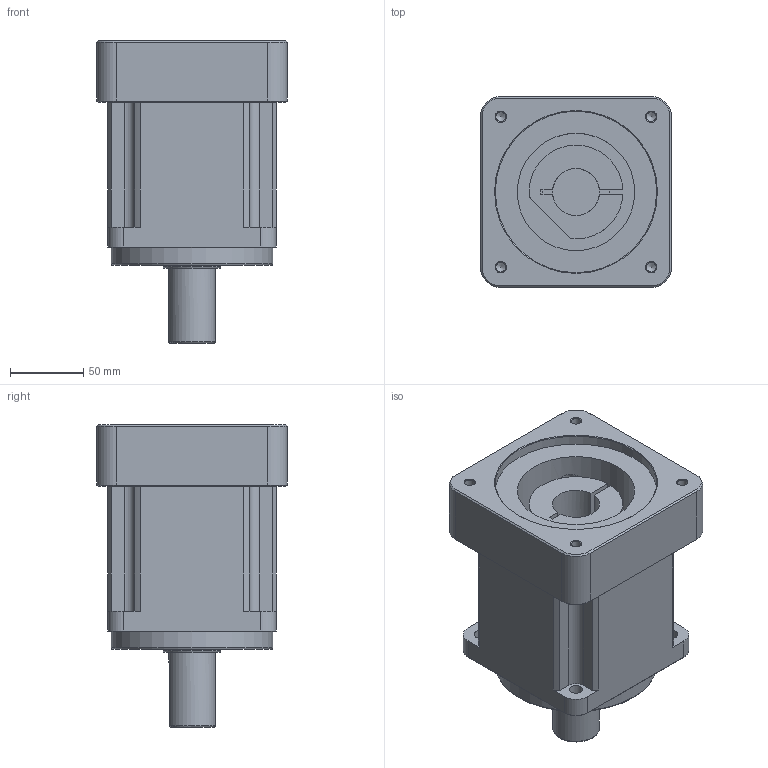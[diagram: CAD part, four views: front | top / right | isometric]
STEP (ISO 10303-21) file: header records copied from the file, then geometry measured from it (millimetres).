
FILE_DESCRIPTION((''),'2;1');
FILE_NAME('D:\유성\유성\도면\3D\2. 홈페이지용 3D 도면 (ipt)\외부도\SPI115 1단\SPI(H)115 SERIES (1STAGE-KA TYPE)_Shrinkwrap_1.stp','2014-05-08T13:49:01',('nagyu'),(''),'Autodesk Inventor 2013','Autodesk Inventor 2013','');
FILE_SCHEMA(('AUTOMOTIVE_DESIGN { 1 0 10303 214 1 1 1 1 }'));
Length unit declared in the file: millimetre
Products named in the file (1): SPI(H)115 SERIES (1STAGE-KA TYPE)_Shrinkwrap_1
Bounding box: 130 x 130 x 206 mm (x, y, z)
Volume: 1818559.9 mm3; surface area: 137858.9 mm2
Topology: 1 solids, 1 shells, 122 faces, 308 edges, 194 vertices
Faces by surface type: plane 55, cylinder 41, cone 23, torus 3
Full cylindrical faces by diameter (mm): 6.647 x4, 9 x4, 12 x2, 12.5 x1, 32 x2, 39.5 x1, 45 x1, 80 x1, 110 x2
Entity records: 3479 total; most frequent: CARTESIAN_POINT 639, DIRECTION 611, ORIENTED_EDGE 526, EDGE_CURVE 263, AXIS2_PLACEMENT_3D 230, VERTEX_POINT 180, EDGE_LOOP 171, VECTOR 151
